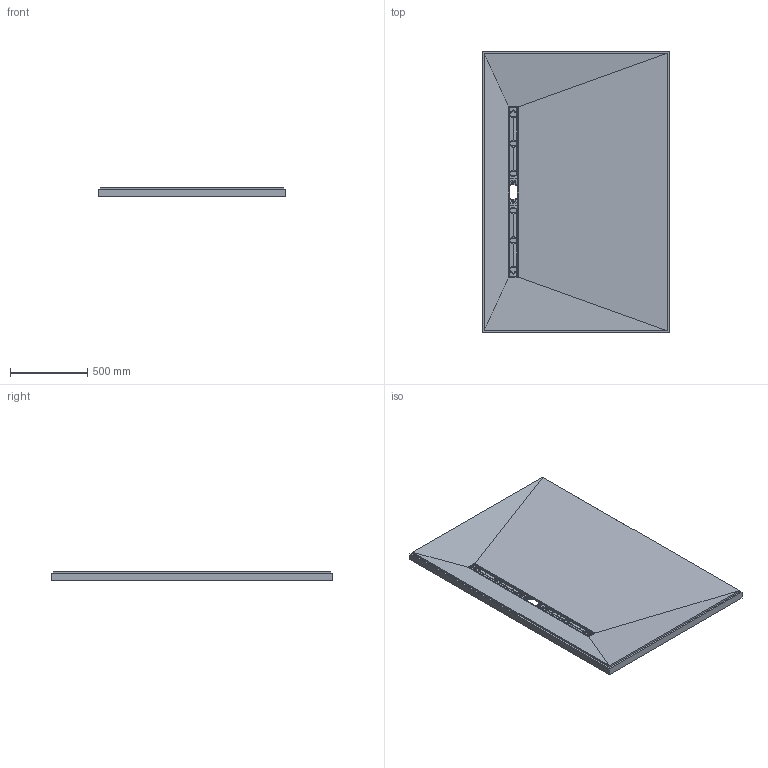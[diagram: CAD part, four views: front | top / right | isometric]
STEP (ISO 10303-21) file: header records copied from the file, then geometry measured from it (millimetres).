
FILE_DESCRIPTION(/* description */ ('Fertigteil'),/* implementation_level */ '2;1');
FILE_NAME(/* name */ 'C:\Users\fuser-vault-job\AppData\Local\Temp\MuM_n4feg0ig.d34\D-000002286.iam_.step',/* time_stamp */ '2022-07-18T17:08:08+02:00',/* author */ ('ds'),/* organization */ (''),/* preprocessor_version */ 'ST-DEVELOPER v18.1',/* originating_system */ 'Autodesk Inventor 2020',/* authorisation */ '');
FILE_SCHEMA (('AUTOMOTIVE_DESIGN { 1 0 10303 214 3 1 1 }'));
Products named in the file (4): 075100152; 075100152_1; D-000002181; 075301012
Assembly tree (3 placements, depth 2):
  075100152
    075100152_1
    D-000002181
    075301012
Bounding box: 1219.2 x 1828.8 x 60 mm (x, y, z)
Volume: 106433566.6 mm3; surface area: 5526785.2 mm2
Topology: 5 solids, 5 shells, 3639 faces, 8613 edges, 4896 vertices
Faces by surface type: cylinder 1474, bspline 1002, plane 664, sphere 344, torus 85, cone 70
Full cylindrical faces by diameter (mm): 8 x3, 123 x1
Entity records: 200461 total; most frequent: CARTESIAN_POINT 118935, ORIENTED_EDGE 16782, DIRECTION 15936, EDGE_CURVE 8391, AXIS2_PLACEMENT_3D 6325, VERTEX_POINT 4856, EDGE_LOOP 3745, FACE_OUTER_BOUND 3639
